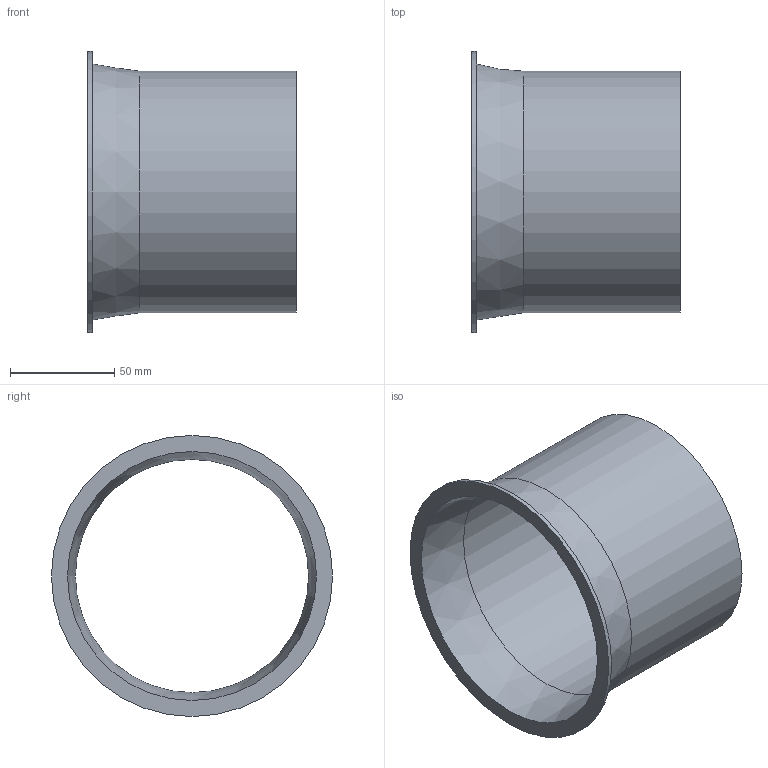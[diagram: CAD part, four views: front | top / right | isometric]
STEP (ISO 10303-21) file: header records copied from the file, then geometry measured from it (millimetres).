
FILE_DESCRIPTION((''),'2;1');
FILE_NAME('U:\Wolfgang\Marcel-3D\fertig\Kapitel 1\1211009.stp','2010-05-31T11:02:05',('TK2'),(''),'Autodesk Inventor 2010','Autodesk Inventor 2010','');
FILE_SCHEMA(('AUTOMOTIVE_DESIGN { 1 0 10303 214 1 1 1 1 }'));
Length unit declared in the file: millimetre
Products named in the file (1): 1211009
Bounding box: 100 x 135 x 135 mm (x, y, z)
Volume: 77180 mm3; surface area: 78733.5 mm2
Topology: 1 solids, 1 shells, 8 faces, 14 edges, 9 vertices
Faces by surface type: cylinder 3, plane 3, cone 2
Full cylindrical faces by diameter (mm): 112 x1, 116 x1, 135 x1
Entity records: 194 total; most frequent: DIRECTION 34, CARTESIAN_POINT 25, AXIS2_PLACEMENT_3D 17, ORIENTED_EDGE 16, EDGE_LOOP 16, VERTEX_POINT 8, CIRCLE 8, EDGE_CURVE 8
